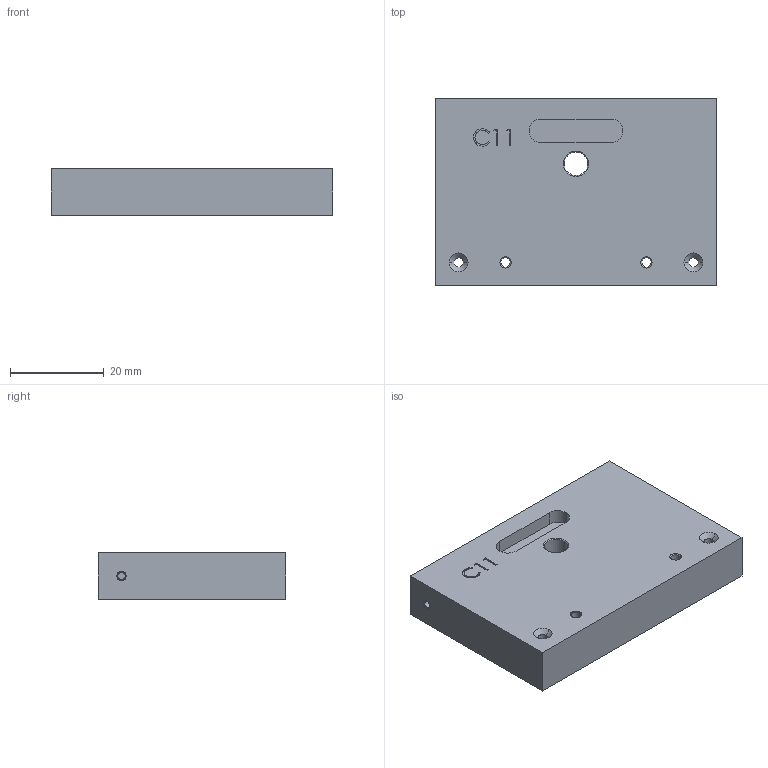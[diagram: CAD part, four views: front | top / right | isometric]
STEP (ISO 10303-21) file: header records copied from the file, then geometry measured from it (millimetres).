
FILE_DESCRIPTION (( 'STEP AP214' ), '1' );
FILE_NAME ('C11.STEP', '2016-02-27T15:11:48', ( '' ), ( '' ), 'SwSTEP 2.0', 'SolidWorks 2012', '' );
FILE_SCHEMA (( 'AUTOMOTIVE_DESIGN' ));
Length unit declared in the file: millimetre
Products named in the file (1): C11
Bounding box: 60 x 40 x 10 mm (x, y, z)
Volume: 23288.1 mm3; surface area: 7430.7 mm2
Topology: 1 solids, 1 shells, 93 faces, 223 edges, 140 vertices
Faces by surface type: plane 30, cone 28, cylinder 26, bspline 9
Entity records: 3391 total; most frequent: CARTESIAN_POINT 1174, DIRECTION 447, ORIENTED_EDGE 446, EDGE_CURVE 223, AXIS2_PLACEMENT_3D 163, VERTEX_POINT 140, LINE 121, VECTOR 121
